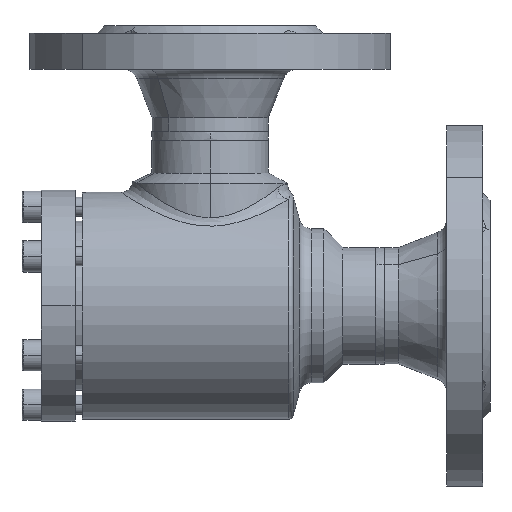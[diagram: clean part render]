
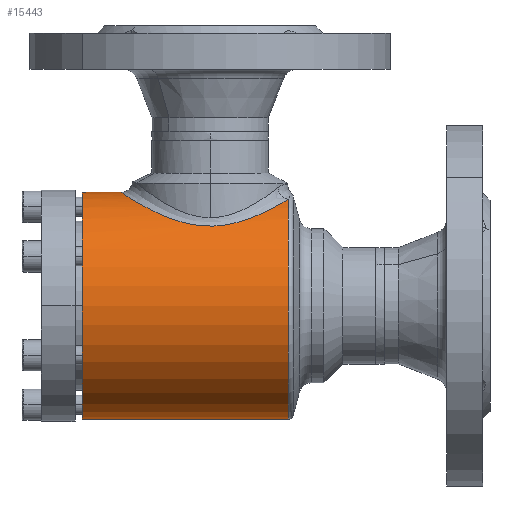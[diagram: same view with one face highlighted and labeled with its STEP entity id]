
A CAD part, left-side view. The second image highlights one B-rep face of the part: STEP entity #15443.
In plain terms, the highlighted cylindrical face has radius 47 mm (diameter 94 mm), a partial arc.
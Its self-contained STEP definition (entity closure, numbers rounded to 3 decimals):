
#182 = VERTEX_POINT ( 'NONE', #8936 ) ;
#398 = EDGE_CURVE ( 'NONE', #14168, #182, #9059, .T. ) ;
#2619 = ORIENTED_EDGE ( 'NONE', *, *, #10299, .F. ) ;
#3171 = CARTESIAN_POINT ( 'NONE',  ( -16.073, -85.446, 44.166 ) ) ;
#3180 = CARTESIAN_POINT ( 'NONE',  ( 0., -85.446, -47. ) ) ;
#3977 = EDGE_CURVE ( 'NONE', #9626, #7723, #5457, .T. ) ;
#4186 = CIRCLE ( 'NONE', #4187, 47. ) ;
#4187 = AXIS2_PLACEMENT_3D ( 'NONE', #4188, #4189, #4190 ) ;
#4188 = CARTESIAN_POINT ( 'NONE',  ( 0., 0., 0. ) ) ;
#4189 = DIRECTION ( 'NONE',  ( 0., 1., 0. ) ) ;
#4190 = DIRECTION ( 'NONE',  ( 0., 0., 1. ) ) ;
#4316 = LINE ( 'NONE', #4317, #4318 ) ;
#4317 = CARTESIAN_POINT ( 'NONE',  ( 0., -91., 47. ) ) ;
#4318 = VECTOR ( 'NONE', #4319, 1000. ) ;
#4319 = DIRECTION ( 'NONE',  ( 0., 1., 0. ) ) ;
#4427 = CARTESIAN_POINT ( 'NONE',  ( 0., -16., 47. ) ) ;
#4916 = FACE_OUTER_BOUND ( 'NONE', #6462, .T. ) ;
#4917 = CYLINDRICAL_SURFACE ( 'NONE', #4918, 47. ) ;
#4918 = AXIS2_PLACEMENT_3D ( 'NONE', #4919, #4920, #4921 ) ;
#4919 = CARTESIAN_POINT ( 'NONE',  ( 0., -91., 0. ) ) ;
#4920 = DIRECTION ( 'NONE',  ( 0., 1., 0. ) ) ;
#4921 = DIRECTION ( 'NONE',  ( 0., 0., 1. ) ) ;
#5457 = B_SPLINE_CURVE_WITH_KNOTS ( 'NONE', 3,
 ( #5458, #5459, #5460, #5461, #5462, #5463, #5464, #5465, #5466, #5467, #5468, #5469, #5473, #5474, #5475, #5476, #5477, #5478, #5479, #5480, #5481, #5482, #5483, #5484, #5485, #5486, #5487, #5488, #5490, #5491, #5492, #5493, #5494, #5495, #5496, #5497, #5498, #5499, #5500, #5501, #5502, #5503, #5504, #5505, #5507, #5508, #5509, #5510, #5511, #5512, #5513, #5514, #5515, #5516, #5517, #5518, #5519, #5520, #5521, #5522, #5525, #5526 ),
 .UNSPECIFIED., .F., .F.,
 ( 4, 2, 2, 2, 2, 2, 2, 2, 2, 2, 2, 2, 2, 2, 2, 2, 2, 2, 2, 2, 2, 2, 2, 2, 2, 2, 2, 2, 2, 2, 4 ),
 ( 0.017, 0.023, 0.026, 0.029, 0.035, 0.039, 0.04, 0.042, 0.048, 0.051, 0.052, 0.054, 0.06, 0.063, 0.066, 0.069, 0.072, 0.078, 0.081, 0.083, 0.084, 0.09, 0.093, 0.095, 0.096, 0.103, 0.106, 0.107, 0.109, 0.112, 0.115 ),
 .UNSPECIFIED. ) ;
#5458 = CARTESIAN_POINT ( 'NONE',  ( -16.073, -85.446, 44.166 ) ) ;
#5459 = CARTESIAN_POINT ( 'NONE',  ( -17.749, -84.43, 43.556 ) ) ;
#5460 = CARTESIAN_POINT ( 'NONE',  ( -19.293, -83.29, 42.887 ) ) ;
#5461 = CARTESIAN_POINT ( 'NONE',  ( -21.444, -81.41, 41.831 ) ) ;
#5462 = CARTESIAN_POINT ( 'NONE',  ( -22.133, -80.755, 41.469 ) ) ;
#5463 = CARTESIAN_POINT ( 'NONE',  ( -23.459, -79.389, 40.734 ) ) ;
#5464 = CARTESIAN_POINT ( 'NONE',  ( -24.096, -78.676, 40.359 ) ) ;
#5465 = CARTESIAN_POINT ( 'NONE',  ( -25.907, -76.48, 39.24 ) ) ;
#5466 = CARTESIAN_POINT ( 'NONE',  ( -26.989, -74.936, 38.497 ) ) ;
#5467 = CARTESIAN_POINT ( 'NONE',  ( -28.44, -72.491, 37.424 ) ) ;
#5468 = CARTESIAN_POINT ( 'NONE',  ( -28.894, -71.655, 37.073 ) ) ;
#5469 = CARTESIAN_POINT ( 'NONE',  ( -29.533, -70.366, 36.563 ) ) ;
#5473 = CARTESIAN_POINT ( 'NONE',  ( -29.739, -69.93, 36.396 ) ) ;
#5474 = CARTESIAN_POINT ( 'NONE',  ( -30.137, -69.047, 36.067 ) ) ;
#5475 = CARTESIAN_POINT ( 'NONE',  ( -30.328, -68.599, 35.906 ) ) ;
#5476 = CARTESIAN_POINT ( 'NONE',  ( -31.243, -66.344, 35.126 ) ) ;
#5477 = CARTESIAN_POINT ( 'NONE',  ( -31.842, -64.482, 34.576 ) ) ;
#5478 = CARTESIAN_POINT ( 'NONE',  ( -32.541, -61.591, 33.914 ) ) ;
#5479 = CARTESIAN_POINT ( 'NONE',  ( -32.74, -60.61, 33.721 ) ) ;
#5480 = CARTESIAN_POINT ( 'NONE',  ( -32.986, -59.111, 33.48 ) ) ;
#5481 = CARTESIAN_POINT ( 'NONE',  ( -33.059, -58.608, 33.408 ) ) ;
#5482 = CARTESIAN_POINT ( 'NONE',  ( -33.186, -57.603, 33.282 ) ) ;
#5483 = CARTESIAN_POINT ( 'NONE',  ( -33.239, -57.1, 33.229 ) ) ;
#5484 = CARTESIAN_POINT ( 'NONE',  ( -33.462, -54.583, 33.006 ) ) ;
#5485 = CARTESIAN_POINT ( 'NONE',  ( -33.49, -52.562, 32.976 ) ) ;
#5486 = CARTESIAN_POINT ( 'NONE',  ( -33.307, -49.52, 33.161 ) ) ;
#5487 = CARTESIAN_POINT ( 'NONE',  ( -33.207, -48.498, 33.262 ) ) ;
#5488 = CARTESIAN_POINT ( 'NONE',  ( -32.933, -46.49, 33.532 ) ) ;
#5490 = CARTESIAN_POINT ( 'NONE',  ( -32.761, -45.501, 33.702 ) ) ;
#5491 = CARTESIAN_POINT ( 'NONE',  ( -32.346, -43.55, 34.1 ) ) ;
#5492 = CARTESIAN_POINT ( 'NONE',  ( -32.103, -42.587, 34.33 ) ) ;
#5493 = CARTESIAN_POINT ( 'NONE',  ( -31.549, -40.688, 34.839 ) ) ;
#5494 = CARTESIAN_POINT ( 'NONE',  ( -31.237, -39.749, 35.121 ) ) ;
#5495 = CARTESIAN_POINT ( 'NONE',  ( -30.211, -37.009, 36.016 ) ) ;
#5496 = CARTESIAN_POINT ( 'NONE',  ( -29.406, -35.272, 36.683 ) ) ;
#5497 = CARTESIAN_POINT ( 'NONE',  ( -28.021, -32.781, 37.738 ) ) ;
#5498 = CARTESIAN_POINT ( 'NONE',  ( -27.529, -31.97, 38.099 ) ) ;
#5499 = CARTESIAN_POINT ( 'NONE',  ( -26.744, -30.781, 38.65 ) ) ;
#5500 = CARTESIAN_POINT ( 'NONE',  ( -26.475, -30.389, 38.835 ) ) ;
#5501 = CARTESIAN_POINT ( 'NONE',  ( -25.92, -29.615, 39.208 ) ) ;
#5502 = CARTESIAN_POINT ( 'NONE',  ( -25.634, -29.233, 39.396 ) ) ;
#5503 = CARTESIAN_POINT ( 'NONE',  ( -24.175, -27.357, 40.33 ) ) ;
#5504 = CARTESIAN_POINT ( 'NONE',  ( -22.902, -25.964, 41.072 ) ) ;
#5505 = CARTESIAN_POINT ( 'NONE',  ( -20.822, -24.029, 42.143 ) ) ;
#5507 = CARTESIAN_POINT ( 'NONE',  ( -20.099, -23.411, 42.494 ) ) ;
#5508 = CARTESIAN_POINT ( 'NONE',  ( -18.969, -22.523, 43.004 ) ) ;
#5509 = CARTESIAN_POINT ( 'NONE',  ( -18.584, -22.235, 43.172 ) ) ;
#5510 = CARTESIAN_POINT ( 'NONE',  ( -17.798, -21.671, 43.502 ) ) ;
#5511 = CARTESIAN_POINT ( 'NONE',  ( -17.396, -21.396, 43.664 ) ) ;
#5512 = CARTESIAN_POINT ( 'NONE',  ( -15.356, -20.064, 44.455 ) ) ;
#5513 = CARTESIAN_POINT ( 'NONE',  ( -13.635, -19.147, 45.018 ) ) ;
#5514 = CARTESIAN_POINT ( 'NONE',  ( -10.906, -18.006, 45.727 ) ) ;
#5515 = CARTESIAN_POINT ( 'NONE',  ( -9.972, -17.666, 45.94 ) ) ;
#5516 = CARTESIAN_POINT ( 'NONE',  ( -8.53, -17.219, 46.222 ) ) ;
#5517 = CARTESIAN_POINT ( 'NONE',  ( -8.041, -17.081, 46.31 ) ) ;
#5518 = CARTESIAN_POINT ( 'NONE',  ( -7.058, -16.829, 46.47 ) ) ;
#5519 = CARTESIAN_POINT ( 'NONE',  ( -6.563, -16.715, 46.542 ) ) ;
#5520 = CARTESIAN_POINT ( 'NONE',  ( -5.066, -16.41, 46.737 ) ) ;
#5521 = CARTESIAN_POINT ( 'NONE',  ( -4.049, -16.255, 46.836 ) ) ;
#5522 = CARTESIAN_POINT ( 'NONE',  ( -2.024, -16.051, 46.967 ) ) ;
#5525 = CARTESIAN_POINT ( 'NONE',  ( -1.011, -16., 47. ) ) ;
#5526 = CARTESIAN_POINT ( 'NONE',  ( 0., -16., 47. ) ) ;
#5537 = CARTESIAN_POINT ( 'NONE',  ( 0., 0., 47. ) ) ;
#6043 = EDGE_CURVE ( 'NONE', #14168, #9626, #10397, .T. ) ;
#6462 = EDGE_LOOP ( 'NONE', ( #14328, #16280, #9297, #8602, #2619 ) ) ;
#7723 = VERTEX_POINT ( 'NONE', #4427 ) ;
#8602 = ORIENTED_EDGE ( 'NONE', *, *, #10580, .T. ) ;
#8936 = CARTESIAN_POINT ( 'NONE',  ( 0., 0., -47. ) ) ;
#9059 = LINE ( 'NONE', #9060, #9062 ) ;
#9060 = CARTESIAN_POINT ( 'NONE',  ( 0., -91., -47. ) ) ;
#9062 = VECTOR ( 'NONE', #9063, 1000. ) ;
#9063 = DIRECTION ( 'NONE',  ( 0., 1., 0. ) ) ;
#9297 = ORIENTED_EDGE ( 'NONE', *, *, #3977, .T. ) ;
#9626 = VERTEX_POINT ( 'NONE', #3171 ) ;
#10299 = EDGE_CURVE ( 'NONE', #182, #11419, #4186, .T. ) ;
#10397 = CIRCLE ( 'NONE', #10398, 47. ) ;
#10398 = AXIS2_PLACEMENT_3D ( 'NONE', #10399, #10400, #10401 ) ;
#10399 = CARTESIAN_POINT ( 'NONE',  ( 0., -85.446, 0. ) ) ;
#10400 = DIRECTION ( 'NONE',  ( 0., 1., 0. ) ) ;
#10401 = DIRECTION ( 'NONE',  ( 0., 0., -1. ) ) ;
#10580 = EDGE_CURVE ( 'NONE', #7723, #11419, #4316, .T. ) ;
#11419 = VERTEX_POINT ( 'NONE', #5537 ) ;
#14168 = VERTEX_POINT ( 'NONE', #3180 ) ;
#14328 = ORIENTED_EDGE ( 'NONE', *, *, #398, .F. ) ;
#15443 = ADVANCED_FACE ( 'NONE', ( #4916 ), #4917, .T. ) ;
#16280 = ORIENTED_EDGE ( 'NONE', *, *, #6043, .T. ) ;
